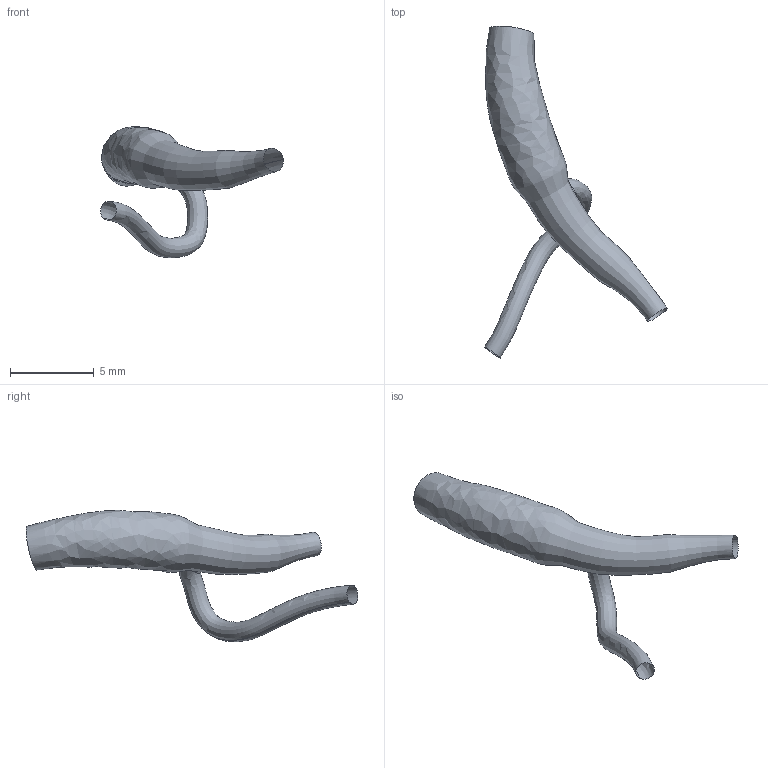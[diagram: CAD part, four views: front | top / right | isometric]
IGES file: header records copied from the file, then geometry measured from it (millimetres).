
Global section: file name: C:\Documents and Settings\Administrator\Desktop\FDA Bifurcation win\RawData_for_IGES\HRCA_Data\20000201.093459\IGES\20000201.093459.RM1.BIFUR.ES.igs; native system: Rhinoceros ( May 19 2006 ); preprocessor: Trout Lake IGES 012 May 19 2006; date: 100728.200637; units: centimetre
Bounding box: 10.93 x 19.83 x 7.85 mm (x, y, z)
Surface area: 223.4 mm2 (no closed solid volume)
Topology: 0 solids, 0 shells, 3 faces, 34 edges, 29 vertices
Faces by surface type: bspline 3
